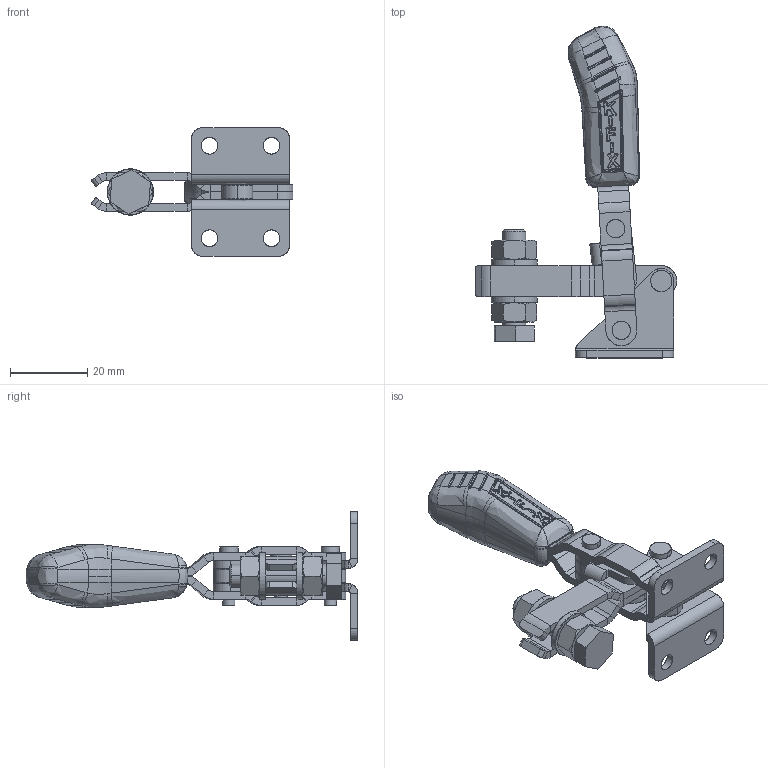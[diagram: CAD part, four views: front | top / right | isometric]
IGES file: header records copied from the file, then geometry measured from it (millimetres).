
Start section: SolidWorks IGES file using analytic representation for surfaces
Global section: file name: C:\Projetos\Grampos\KF-010\KF-010 DB\KF-010 DB.IGS; native system: SolidWorks 2013; preprocessor: SolidWorks 2013; author: Ricardo; date: 140728.090603; units: millimetre
Bounding box: 52.09 x 85.77 x 33.3 mm (x, y, z)
Surface area: 15393.3 mm2 (no closed solid volume)
Topology: 0 solids, 0 shells, 1137 faces, 11835 edges, 11812 vertices
Faces by surface type: bspline 645, revolution 492
